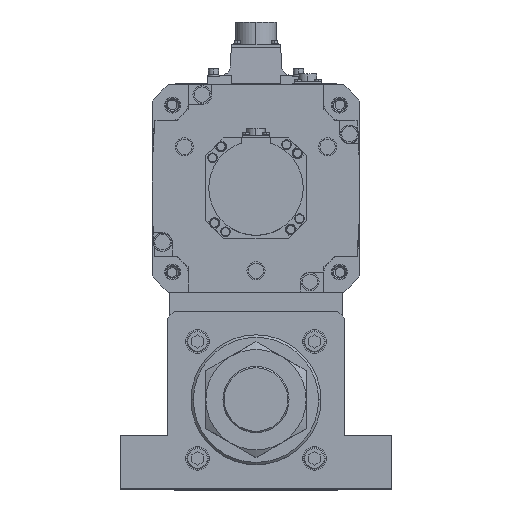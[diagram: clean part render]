
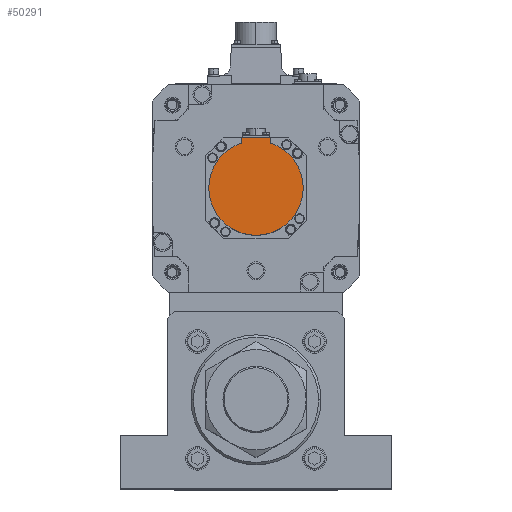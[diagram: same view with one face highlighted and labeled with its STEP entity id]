
A CAD part, top view. The second image highlights one B-rep face of the part: STEP entity #50291.
In plain terms, the highlighted planar face has unit normal (0, 0, 1) as drawn and (0, 0, -1) by its records, which use the part's own axes.
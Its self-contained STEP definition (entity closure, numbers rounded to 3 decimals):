
#2671 = DIRECTION ( 'NONE',  ( 1., 0., 0. ) ) ;
#2820 = VECTOR ( 'NONE', #22170, 1000. ) ;
#4385 = EDGE_CURVE ( 'NONE', #13852, #6262, #30888, .T. ) ;
#4782 = DIRECTION ( 'NONE',  ( 0., 1., 0. ) ) ;
#5739 = CARTESIAN_POINT ( 'NONE',  ( 12., -1.249, -228. ) ) ;
#5808 = ORIENTED_EDGE ( 'NONE', *, *, #53348, .F. ) ;
#6262 = VERTEX_POINT ( 'NONE', #45293 ) ;
#8021 = ORIENTED_EDGE ( 'NONE', *, *, #37204, .F. ) ;
#9448 = CARTESIAN_POINT ( 'NONE',  ( -12., -42.5, -228. ) ) ;
#9457 = VERTEX_POINT ( 'NONE', #20372 ) ;
#10119 = VERTEX_POINT ( 'NONE', #9448 ) ;
#10473 = DIRECTION ( 'NONE',  ( 1., 0., 0. ) ) ;
#11057 = CARTESIAN_POINT ( 'NONE',  ( 0., 0., -228. ) ) ;
#11599 = VERTEX_POINT ( 'NONE', #50187 ) ;
#13229 = ORIENTED_EDGE ( 'NONE', *, *, #4385, .F. ) ;
#13852 = VERTEX_POINT ( 'NONE', #44598 ) ;
#15092 = EDGE_LOOP ( 'NONE', ( #21017, #5808, #8021, #44517, #13229, #54209 ) ) ;
#15214 = AXIS2_PLACEMENT_3D ( 'NONE', #50911, #54825, #21234 ) ;
#16468 = LINE ( 'NONE', #21778, #44528 ) ;
#16799 = DIRECTION ( 'NONE',  ( 0., 0., 1. ) ) ;
#18500 = CARTESIAN_POINT ( 'NONE',  ( 0., 0., -228. ) ) ;
#19430 = FACE_OUTER_BOUND ( 'NONE', #15092, .T. ) ;
#20034 = VERTEX_POINT ( 'NONE', #22233 ) ;
#20372 = CARTESIAN_POINT ( 'NONE',  ( -12., -38.158, -228. ) ) ;
#20375 = AXIS2_PLACEMENT_3D ( 'NONE', #38041, #16799, #34300 ) ;
#21017 = ORIENTED_EDGE ( 'NONE', *, *, #50732, .T. ) ;
#21234 = DIRECTION ( 'NONE',  ( 1., 0., 0. ) ) ;
#21778 = CARTESIAN_POINT ( 'NONE',  ( -12., -40.329, -228. ) ) ;
#22170 = DIRECTION ( 'NONE',  ( 0., 1., 0. ) ) ;
#22233 = CARTESIAN_POINT ( 'NONE',  ( -40., 0., -228. ) ) ;
#23669 = EDGE_CURVE ( 'NONE', #6262, #11599, #29784, .T. ) ;
#24480 = CIRCLE ( 'NONE', #15214, 40. ) ;
#25509 = AXIS2_PLACEMENT_3D ( 'NONE', #11057, #28606, #2671 ) ;
#28606 = DIRECTION ( 'NONE',  ( 0., 0., 1. ) ) ;
#29296 = PLANE ( 'NONE',  #20375 ) ;
#29784 = CIRCLE ( 'NONE', #25509, 40. ) ;
#30888 = LINE ( 'NONE', #5739, #2820 ) ;
#33463 = LINE ( 'NONE', #43564, #52889 ) ;
#34300 = DIRECTION ( 'NONE',  ( 1., 0., 0. ) ) ;
#37204 = EDGE_CURVE ( 'NONE', #11599, #20034, #24480, .T. ) ;
#38041 = CARTESIAN_POINT ( 'NONE',  ( 0., -1.249, -228. ) ) ;
#41043 = EDGE_CURVE ( 'NONE', #13852, #10119, #33463, .T. ) ;
#43020 = AXIS2_PLACEMENT_3D ( 'NONE', #18500, #52678, #10473 ) ;
#43564 = CARTESIAN_POINT ( 'NONE',  ( 0., -42.5, -228. ) ) ;
#44517 = ORIENTED_EDGE ( 'NONE', *, *, #23669, .F. ) ;
#44528 = VECTOR ( 'NONE', #4782, 1000. ) ;
#44598 = CARTESIAN_POINT ( 'NONE',  ( 12., -42.5, -228. ) ) ;
#45293 = CARTESIAN_POINT ( 'NONE',  ( 12., -38.158, -228. ) ) ;
#48050 = DIRECTION ( 'NONE',  ( -1., 0., 0. ) ) ;
#50187 = CARTESIAN_POINT ( 'NONE',  ( 40., 0., -228. ) ) ;
#50291 = ADVANCED_FACE ( 'NONE', ( #19430 ), #29296, .F. ) ;
#50732 = EDGE_CURVE ( 'NONE', #10119, #9457, #16468, .T. ) ;
#50911 = CARTESIAN_POINT ( 'NONE',  ( 0., 0., -228. ) ) ;
#52678 = DIRECTION ( 'NONE',  ( 0., 0., 1. ) ) ;
#52889 = VECTOR ( 'NONE', #48050, 1000. ) ;
#52937 = CIRCLE ( 'NONE', #43020, 40. ) ;
#53348 = EDGE_CURVE ( 'NONE', #20034, #9457, #52937, .T. ) ;
#54209 = ORIENTED_EDGE ( 'NONE', *, *, #41043, .T. ) ;
#54825 = DIRECTION ( 'NONE',  ( 0., 0., 1. ) ) ;
